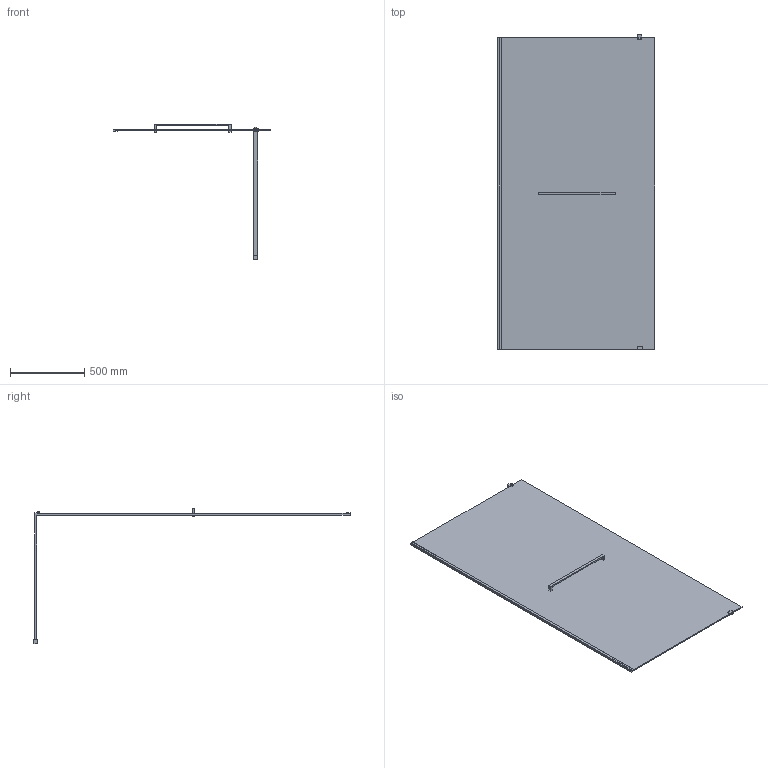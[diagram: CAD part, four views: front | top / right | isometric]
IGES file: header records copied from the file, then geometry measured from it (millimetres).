
Start section: SolidWorks IGES file using analytic representation for surfaces
Global section: file name: D:\Users\M.Szymanski\Desktop\Kabiny\PIII_ALTIIa\03. do przegrania\PIII_ALTIIa_110_z_relingiem_K3D.IGS; native system: SolidWorks 2011; preprocessor: SolidWorks 2011; author: M.Szymanski; date: 181005.104335; units: millimetre
Bounding box: 1058.45 x 2128 x 914.13 mm (x, y, z)
Surface area: 4779830.1 mm2 (no closed solid volume)
Topology: 0 solids, 0 shells, 62 faces, 444 edges, 592 vertices
Faces by surface type: bspline 62
